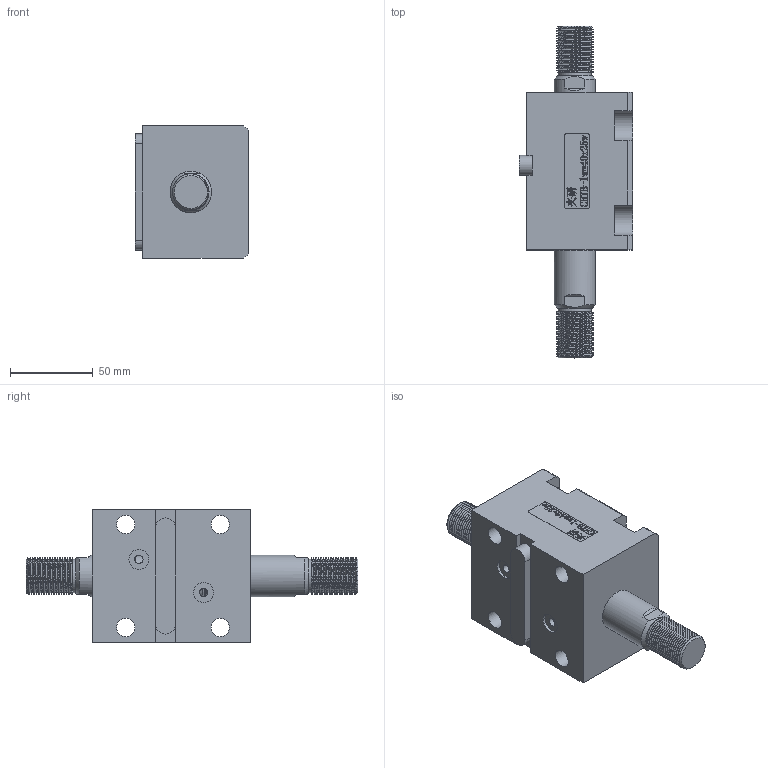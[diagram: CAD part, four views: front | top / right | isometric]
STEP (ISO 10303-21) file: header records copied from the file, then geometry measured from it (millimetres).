
FILE_DESCRIPTION(/* description */ (''),/* implementation_level */ '2;1');
FILE_NAME(/* name */ 'CHTB-lwm40x25w.stp',/* time_stamp */ '2022-04-29T17:36:12+08:00',/* author */ (''),/* organization */ (''),/* preprocessor_version */ 'ST-DEVELOPER v16.7',/* originating_system */ 'SIEMENS PLM Software NX 12.0',/* authorisation */ '');
FILE_SCHEMA (('AUTOMOTIVE_DESIGN { 1 0 10303 214 3 1 1 1 }'));
Length unit declared in the file: millimetre
Products named in the file (1): CHTB-lwm40x25w
Bounding box: 68.5 x 200 x 80 mm (x, y, z)
Volume: 476855.6 mm3; surface area: 90743 mm2
Topology: 4 solids, 4 shells, 528 faces, 1594 edges, 1113 vertices
Faces by surface type: plane 360, extrusion 98, cylinder 43, torus 10, bspline 10, cone 7
Full cylindrical faces by diameter (mm): 4.2 x2, 5 x2, 11 x4, 12 x2, 20 x2, 25 x4, 29 x1, 34 x2, 40 x4, 45 x1
Entity records: 28530 total; most frequent: CARTESIAN_POINT 12349, ORIENTED_EDGE 3062, DIRECTION 2175, EDGE_CURVE 1531, VECTOR 1135, VERTEX_POINT 1093, LINE 1037, EDGE_LOOP 624
